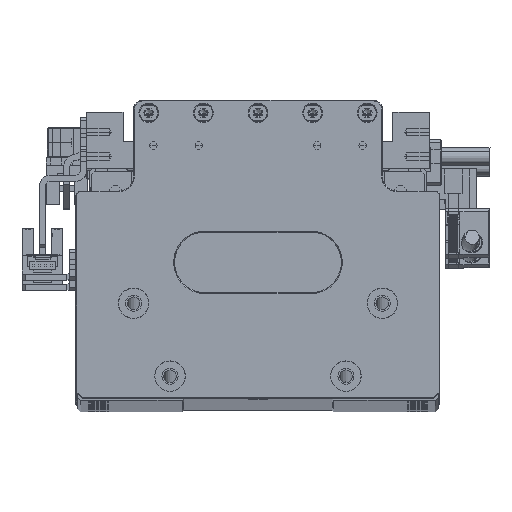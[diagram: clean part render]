
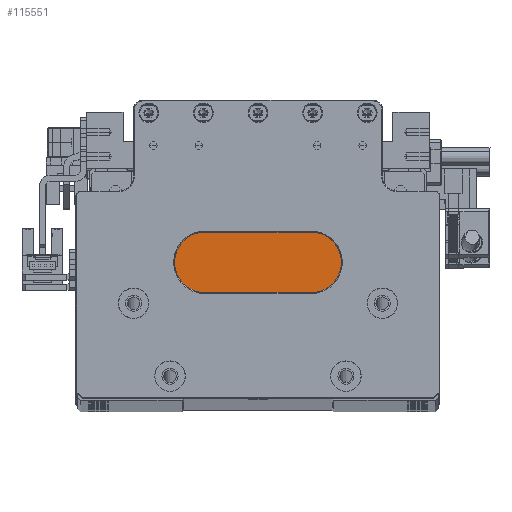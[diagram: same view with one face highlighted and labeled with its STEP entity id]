
A CAD part, top view. The second image highlights one B-rep face of the part: STEP entity #115551.
In plain terms, the highlighted planar face has unit normal (0, 0, 1).
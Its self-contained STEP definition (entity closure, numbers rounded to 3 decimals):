
#581 = VERTEX_POINT ( 'NONE', #115089 ) ;
#1636 = EDGE_CURVE ( 'NONE', #7555, #48627, #42696, .T. ) ;
#1933 = CARTESIAN_POINT ( 'NONE',  ( 25.168, -49.023, 340. ) ) ;
#2819 = PLANE ( 'NONE',  #63320 ) ;
#3119 = VECTOR ( 'NONE', #13690, 1000. ) ;
#5658 = DIRECTION ( 'NONE',  ( 0., 0., -1. ) ) ;
#6251 = LINE ( 'NONE', #83380, #3119 ) ;
#7555 = VERTEX_POINT ( 'NONE', #28592 ) ;
#8595 = CARTESIAN_POINT ( 'NONE',  ( -12.132, -17.023, 340. ) ) ;
#9972 = CARTESIAN_POINT ( 'NONE',  ( -34.632, -49.023, 340. ) ) ;
#11074 = LINE ( 'NONE', #9972, #87433 ) ;
#13646 = CARTESIAN_POINT ( 'NONE',  ( 25.168, -17.023, 340. ) ) ;
#13690 = DIRECTION ( 'NONE',  ( 0., 1., 0. ) ) ;
#15852 = AXIS2_PLACEMENT_3D ( 'NONE', #113814, #54258, #123746 ) ;
#18361 = CARTESIAN_POINT ( 'NONE',  ( 2.868, -17.023, 340. ) ) ;
#18561 = DIRECTION ( 'NONE',  ( 1., 0., 0. ) ) ;
#19306 = CIRCLE ( 'NONE', #15852, 1.25 ) ;
#19771 = EDGE_CURVE ( 'NONE', #27586, #94468, #19306, .T. ) ;
#22104 = VECTOR ( 'NONE', #63408, 1000. ) ;
#22803 = CARTESIAN_POINT ( 'NONE',  ( -4.632, -9.023, 340. ) ) ;
#24259 = EDGE_CURVE ( 'NONE', #48627, #7555, #116497, .T. ) ;
#25253 = LINE ( 'NONE', #122893, #22104 ) ;
#25641 = EDGE_LOOP ( 'NONE', ( #38939, #54223 ) ) ;
#26062 = ORIENTED_EDGE ( 'NONE', *, *, #1636, .T. ) ;
#27586 = VERTEX_POINT ( 'NONE', #34652 ) ;
#28413 = DIRECTION ( 'NONE',  ( 1., 0., 0. ) ) ;
#28592 = CARTESIAN_POINT ( 'NONE',  ( 1.618, -17.023, 340. ) ) ;
#29648 = AXIS2_PLACEMENT_3D ( 'NONE', #18361, #88063, #28413 ) ;
#30563 = EDGE_CURVE ( 'NONE', #581, #106334, #93053, .T. ) ;
#31749 = DIRECTION ( 'NONE',  ( -1., 0., 0. ) ) ;
#32236 = EDGE_LOOP ( 'NONE', ( #56831, #75364, #100960, #75661, #125048, #112537, #109495, #38750 ) ) ;
#34652 = CARTESIAN_POINT ( 'NONE',  ( -13.382, -17.023, 340. ) ) ;
#35375 = EDGE_CURVE ( 'NONE', #106334, #121174, #115953, .T. ) ;
#35745 = VERTEX_POINT ( 'NONE', #13646 ) ;
#38750 = ORIENTED_EDGE ( 'NONE', *, *, #121124, .T. ) ;
#38939 = ORIENTED_EDGE ( 'NONE', *, *, #94915, .T. ) ;
#42696 = CIRCLE ( 'NONE', #79299, 1.25 ) ;
#42730 = FACE_OUTER_BOUND ( 'NONE', #32236, .T. ) ;
#42891 = DIRECTION ( 'NONE',  ( 0., 0., 1. ) ) ;
#44003 = CARTESIAN_POINT ( 'NONE',  ( 13.868, -9.223, 340. ) ) ;
#46458 = DIRECTION ( 'NONE',  ( -1., 0., 0. ) ) ;
#46967 = DIRECTION ( 'NONE',  ( -1., 0., 0. ) ) ;
#47835 = VECTOR ( 'NONE', #46967, 1000. ) ;
#48627 = VERTEX_POINT ( 'NONE', #77159 ) ;
#49666 = AXIS2_PLACEMENT_3D ( 'NONE', #8595, #78266, #18561 ) ;
#54207 = CARTESIAN_POINT ( 'NONE',  ( -34.432, -49.023, 340. ) ) ;
#54223 = ORIENTED_EDGE ( 'NONE', *, *, #19771, .T. ) ;
#54258 = DIRECTION ( 'NONE',  ( 0., 0., -1. ) ) ;
#55383 = EDGE_CURVE ( 'NONE', #55829, #581, #25253, .T. ) ;
#55829 = VERTEX_POINT ( 'NONE', #60695 ) ;
#56831 = ORIENTED_EDGE ( 'NONE', *, *, #70664, .T. ) ;
#59272 = VECTOR ( 'NONE', #68242, 1000. ) ;
#60695 = CARTESIAN_POINT ( 'NONE',  ( -23.132, -9.223, 340. ) ) ;
#60940 = EDGE_CURVE ( 'NONE', #121174, #117064, #11074, .T. ) ;
#63320 = AXIS2_PLACEMENT_3D ( 'NONE', #22803, #42891, #112463 ) ;
#63408 = DIRECTION ( 'NONE',  ( 0., -1., 0. ) ) ;
#65385 = CARTESIAN_POINT ( 'NONE',  ( 2.868, -17.023, 340. ) ) ;
#68242 = DIRECTION ( 'NONE',  ( 0., 1., 0. ) ) ;
#69730 = DIRECTION ( 'NONE',  ( 1., 0., 0. ) ) ;
#70664 = EDGE_CURVE ( 'NONE', #96009, #55829, #82191, .T. ) ;
#71063 = CARTESIAN_POINT ( 'NONE',  ( -10.882, -17.023, 340. ) ) ;
#72157 = CARTESIAN_POINT ( 'NONE',  ( 13.868, -17.023, 340. ) ) ;
#75364 = ORIENTED_EDGE ( 'NONE', *, *, #55383, .T. ) ;
#75383 = DIRECTION ( 'NONE',  ( 1., 0., 0. ) ) ;
#75661 = ORIENTED_EDGE ( 'NONE', *, *, #35375, .T. ) ;
#77159 = CARTESIAN_POINT ( 'NONE',  ( 4.118, -17.023, 340. ) ) ;
#78266 = DIRECTION ( 'NONE',  ( 0., 0., -1. ) ) ;
#79080 = VECTOR ( 'NONE', #46458, 1000. ) ;
#79299 = AXIS2_PLACEMENT_3D ( 'NONE', #65385, #5658, #75383 ) ;
#82191 = LINE ( 'NONE', #86074, #79080 ) ;
#83380 = CARTESIAN_POINT ( 'NONE',  ( 13.868, -9.023, 340. ) ) ;
#85166 = EDGE_CURVE ( 'NONE', #117064, #35745, #109009, .T. ) ;
#86074 = CARTESIAN_POINT ( 'NONE',  ( -4.632, -9.223, 340. ) ) ;
#86443 = VECTOR ( 'NONE', #116783, 1000. ) ;
#87433 = VECTOR ( 'NONE', #69730, 1000. ) ;
#88063 = DIRECTION ( 'NONE',  ( 0., 0., -1. ) ) ;
#89972 = VECTOR ( 'NONE', #31749, 1000. ) ;
#92545 = FACE_BOUND ( 'NONE', #109914, .T. ) ;
#93053 = LINE ( 'NONE', #101356, #89972 ) ;
#94468 = VERTEX_POINT ( 'NONE', #71063 ) ;
#94828 = EDGE_CURVE ( 'NONE', #35745, #128434, #124006, .T. ) ;
#94915 = EDGE_CURVE ( 'NONE', #94468, #27586, #117807, .T. ) ;
#96009 = VERTEX_POINT ( 'NONE', #44003 ) ;
#100960 = ORIENTED_EDGE ( 'NONE', *, *, #30563, .T. ) ;
#101356 = CARTESIAN_POINT ( 'NONE',  ( -4.632, -17.023, 340. ) ) ;
#106334 = VERTEX_POINT ( 'NONE', #125408 ) ;
#106514 = CARTESIAN_POINT ( 'NONE',  ( -4.632, -17.023, 340. ) ) ;
#109009 = LINE ( 'NONE', #118147, #59272 ) ;
#109495 = ORIENTED_EDGE ( 'NONE', *, *, #94828, .T. ) ;
#109914 = EDGE_LOOP ( 'NONE', ( #115689, #26062 ) ) ;
#112463 = DIRECTION ( 'NONE',  ( 1., 0., 0. ) ) ;
#112537 = ORIENTED_EDGE ( 'NONE', *, *, #85166, .T. ) ;
#113814 = CARTESIAN_POINT ( 'NONE',  ( -12.132, -17.023, 340. ) ) ;
#115089 = CARTESIAN_POINT ( 'NONE',  ( -23.132, -17.023, 340. ) ) ;
#115551 = ADVANCED_FACE ( 'NONE', ( #42730, #92545, #118990 ), #2819, .T. ) ;
#115689 = ORIENTED_EDGE ( 'NONE', *, *, #24259, .T. ) ;
#115953 = LINE ( 'NONE', #117625, #86443 ) ;
#116497 = CIRCLE ( 'NONE', #29648, 1.25 ) ;
#116783 = DIRECTION ( 'NONE',  ( 0., -1., 0. ) ) ;
#117064 = VERTEX_POINT ( 'NONE', #1933 ) ;
#117625 = CARTESIAN_POINT ( 'NONE',  ( -34.432, -9.023, 340. ) ) ;
#117807 = CIRCLE ( 'NONE', #49666, 1.25 ) ;
#118147 = CARTESIAN_POINT ( 'NONE',  ( 25.168, -9.023, 340. ) ) ;
#118990 = FACE_BOUND ( 'NONE', #25641, .T. ) ;
#121124 = EDGE_CURVE ( 'NONE', #128434, #96009, #6251, .T. ) ;
#121174 = VERTEX_POINT ( 'NONE', #54207 ) ;
#122893 = CARTESIAN_POINT ( 'NONE',  ( -23.132, -9.023, 340. ) ) ;
#123746 = DIRECTION ( 'NONE',  ( 1., 0., 0. ) ) ;
#124006 = LINE ( 'NONE', #106514, #47835 ) ;
#125048 = ORIENTED_EDGE ( 'NONE', *, *, #60940, .T. ) ;
#125408 = CARTESIAN_POINT ( 'NONE',  ( -34.432, -17.023, 340. ) ) ;
#128434 = VERTEX_POINT ( 'NONE', #72157 ) ;
